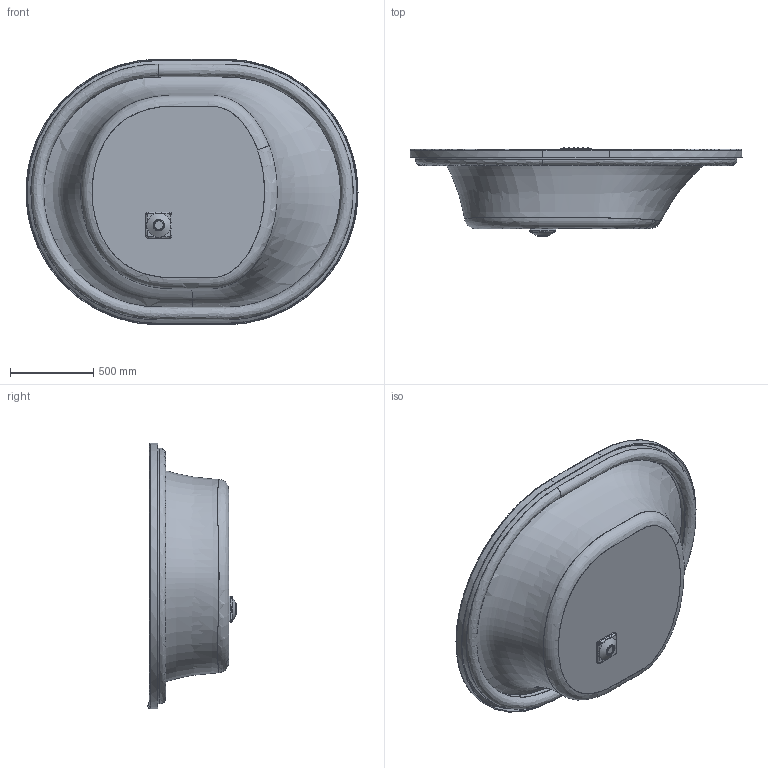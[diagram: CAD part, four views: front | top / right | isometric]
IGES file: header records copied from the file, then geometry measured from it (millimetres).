
Start section: SolidWorks IGES file using analytic representation for surfaces
Global section: file name: D:\Users\M.Szymanski\Desktop\Wanny\ergo-stripe\03. do przegrania\WO_ERGO_2000x1600.IGS; native system: SolidWorks 2011; preprocessor: SolidWorks 2011; author: M.Szymanski; date: 180920.122916; units: millimetre
Bounding box: 2000 x 531.36 x 1600 mm (x, y, z)
Surface area: 9609927.7 mm2 (no closed solid volume)
Topology: 0 solids, 0 shells, 202 faces, 1460 edges, 1834 vertices
Faces by surface type: bspline 134, revolution 68
